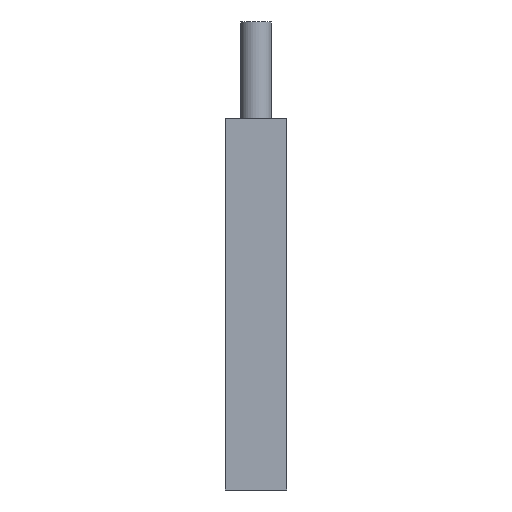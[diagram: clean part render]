
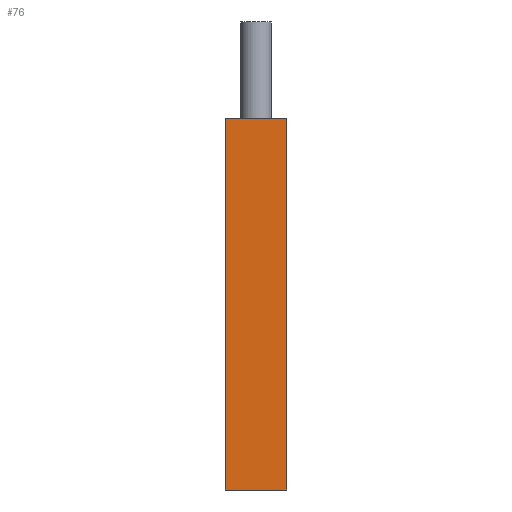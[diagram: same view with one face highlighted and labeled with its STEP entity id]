
A CAD part, front view. The second image highlights one B-rep face of the part: STEP entity #76.
In plain terms, the highlighted planar face has unit normal (0, -1, 0) as drawn and (0, 0, 1) by its records, which use the part's own axes.
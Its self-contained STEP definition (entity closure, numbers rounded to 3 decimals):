
#12 = CARTESIAN_POINT ( 'NONE',  ( 10., 0., 10. ) ) ;
#17 = AXIS2_PLACEMENT_3D ( 'NONE', #157, #38, #277 ) ;
#38 = DIRECTION ( 'NONE',  ( 0., 0., 1. ) ) ;
#76 = ADVANCED_FACE ( 'NONE', ( #90 ), #418, .T. ) ;
#84 = VERTEX_POINT ( 'NONE', #330 ) ;
#90 = FACE_OUTER_BOUND ( 'NONE', #386, .T. ) ;
#125 = ORIENTED_EDGE ( 'NONE', *, *, #328, .F. ) ;
#135 = ORIENTED_EDGE ( 'NONE', *, *, #451, .T. ) ;
#157 = CARTESIAN_POINT ( 'NONE',  ( 10., 120., 10. ) ) ;
#160 = VECTOR ( 'NONE', #299, 1000. ) ;
#168 = VECTOR ( 'NONE', #466, 1000. ) ;
#169 = DIRECTION ( 'NONE',  ( -1., 0., 0. ) ) ;
#212 = LINE ( 'NONE', #12, #230 ) ;
#214 = LINE ( 'NONE', #515, #432 ) ;
#230 = VECTOR ( 'NONE', #169, 1000. ) ;
#254 = CARTESIAN_POINT ( 'NONE',  ( -10., 120., 10. ) ) ;
#277 = DIRECTION ( 'NONE',  ( 1., 0., 0. ) ) ;
#279 = LINE ( 'NONE', #430, #168 ) ;
#299 = DIRECTION ( 'NONE',  ( 0., -1., 0. ) ) ;
#302 = VERTEX_POINT ( 'NONE', #450 ) ;
#326 = VERTEX_POINT ( 'NONE', #483 ) ;
#328 = EDGE_CURVE ( 'NONE', #84, #485, #214, .T. ) ;
#330 = CARTESIAN_POINT ( 'NONE',  ( 10., 120., 10. ) ) ;
#385 = EDGE_CURVE ( 'NONE', #485, #302, #212, .T. ) ;
#386 = EDGE_LOOP ( 'NONE', ( #495, #125, #135, #404 ) ) ;
#404 = ORIENTED_EDGE ( 'NONE', *, *, #523, .T. ) ;
#418 = PLANE ( 'NONE',  #17 ) ;
#430 = CARTESIAN_POINT ( 'NONE',  ( 10., 120., 10. ) ) ;
#432 = VECTOR ( 'NONE', #525, 1000. ) ;
#450 = CARTESIAN_POINT ( 'NONE',  ( -10., 0., 10. ) ) ;
#451 = EDGE_CURVE ( 'NONE', #84, #326, #279, .T. ) ;
#466 = DIRECTION ( 'NONE',  ( -1., 0., 0. ) ) ;
#468 = CARTESIAN_POINT ( 'NONE',  ( 10., 0., 10. ) ) ;
#483 = CARTESIAN_POINT ( 'NONE',  ( -10., 120., 10. ) ) ;
#485 = VERTEX_POINT ( 'NONE', #468 ) ;
#492 = LINE ( 'NONE', #254, #160 ) ;
#495 = ORIENTED_EDGE ( 'NONE', *, *, #385, .F. ) ;
#515 = CARTESIAN_POINT ( 'NONE',  ( 10., 120., 10. ) ) ;
#523 = EDGE_CURVE ( 'NONE', #326, #302, #492, .T. ) ;
#525 = DIRECTION ( 'NONE',  ( 0., -1., 0. ) ) ;
